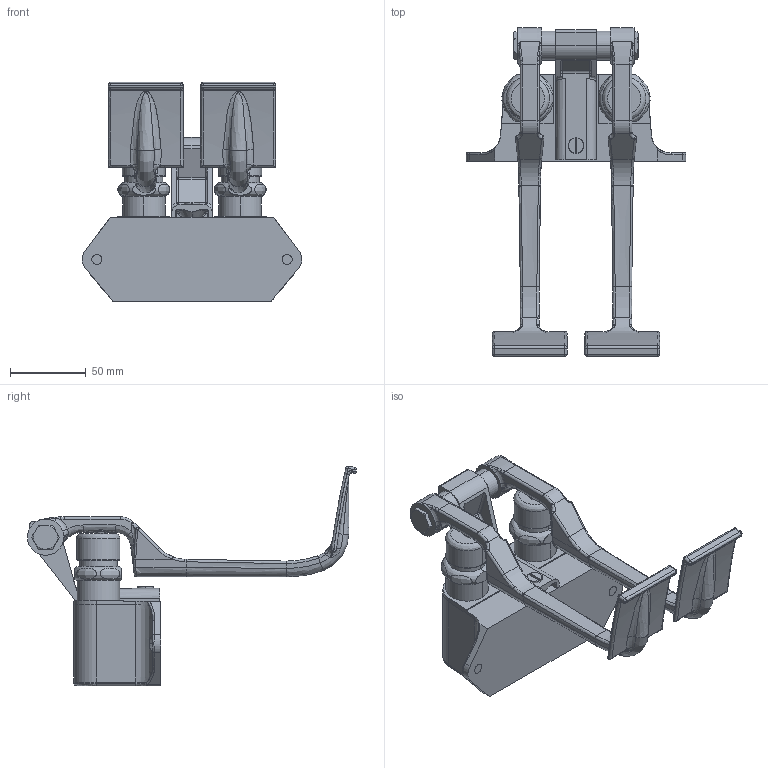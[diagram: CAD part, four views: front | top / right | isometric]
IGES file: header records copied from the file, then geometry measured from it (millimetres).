
Start section:  PTC IGES file: 625-LPSLOABCP_REV050410.igs
Global section: file name: 625-LPSLOABCP_REV050410.igs; native system: Pro/ENGINEER by Parametric Technology Corporation; preprocessor: 2009230; author: sdmitruk; organization: Unknown; date: 20100504.104358; units: inch
Bounding box: 144.78 x 217.19 x 144.87 mm (x, y, z)
Surface area: 90673.1 mm2 (no closed solid volume)
Topology: 0 solids, 0 shells, 533 faces, 3715 edges, 4944 vertices
Faces by surface type: bspline 273, revolution 252, extrusion 8
